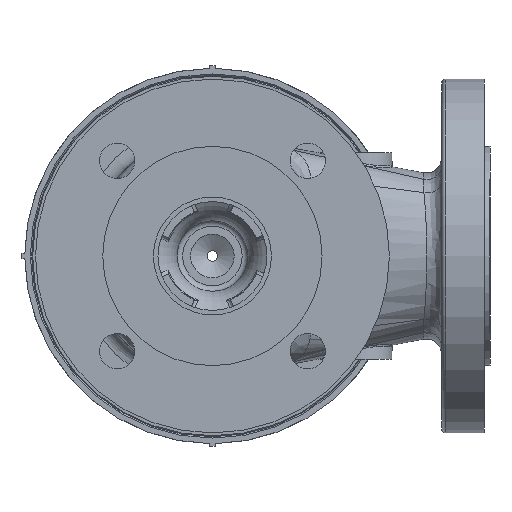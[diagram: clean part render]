
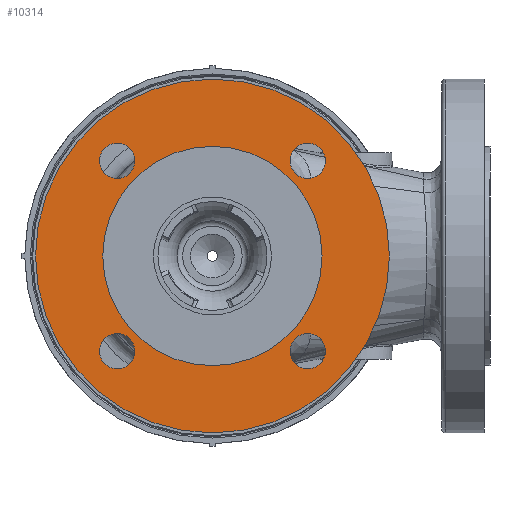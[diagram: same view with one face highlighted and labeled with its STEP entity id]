
A CAD part, front view. The second image highlights one B-rep face of the part: STEP entity #10314.
In plain terms, the highlighted planar face has unit normal (0, -1, 0).
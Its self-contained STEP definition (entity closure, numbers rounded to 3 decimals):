
#1808=FACE_BOUND('',#2591,.T.);
#1809=FACE_BOUND('',#2592,.T.);
#1810=FACE_BOUND('',#2593,.T.);
#1811=FACE_BOUND('',#2594,.T.);
#1812=FACE_BOUND('',#2595,.T.);
#1890=FACE_OUTER_BOUND('',#2590,.T.);
#2590=EDGE_LOOP('',(#6818));
#2591=EDGE_LOOP('',(#6819));
#2592=EDGE_LOOP('',(#6820));
#2593=EDGE_LOOP('',(#6821));
#2594=EDGE_LOOP('',(#6822));
#2595=EDGE_LOOP('',(#6823));
#3343=CIRCLE('',#11040,9.5);
#3345=CIRCLE('',#11043,9.5);
#3347=CIRCLE('',#11046,9.5);
#3349=CIRCLE('',#11049,9.5);
#3363=CIRCLE('',#11070,59.);
#3365=CIRCLE('',#11073,95.25);
#4039=VERTEX_POINT('',#15245);
#4041=VERTEX_POINT('',#15251);
#4043=VERTEX_POINT('',#15257);
#4045=VERTEX_POINT('',#15263);
#4064=VERTEX_POINT('',#15356);
#4066=VERTEX_POINT('',#15362);
#5086=EDGE_CURVE('',#4039,#4039,#3343,.T.);
#5089=EDGE_CURVE('',#4041,#4041,#3345,.T.);
#5092=EDGE_CURVE('',#4043,#4043,#3347,.T.);
#5095=EDGE_CURVE('',#4045,#4045,#3349,.T.);
#5121=EDGE_CURVE('',#4064,#4064,#3363,.T.);
#5124=EDGE_CURVE('',#4066,#4066,#3365,.T.);
#6818=ORIENTED_EDGE('',*,*,#5124,.F.);
#6819=ORIENTED_EDGE('',*,*,#5086,.T.);
#6820=ORIENTED_EDGE('',*,*,#5089,.T.);
#6821=ORIENTED_EDGE('',*,*,#5092,.T.);
#6822=ORIENTED_EDGE('',*,*,#5095,.T.);
#6823=ORIENTED_EDGE('',*,*,#5121,.F.);
#10092=PLANE('',#11072);
#10314=ADVANCED_FACE('',(#1890,#1808,#1809,#1810,#1811,#1812),#10092,.T.);
#11040=AXIS2_PLACEMENT_3D('',#15246,#12327,#12328);
#11043=AXIS2_PLACEMENT_3D('',#15252,#12334,#12335);
#11046=AXIS2_PLACEMENT_3D('',#15258,#12341,#12342);
#11049=AXIS2_PLACEMENT_3D('',#15264,#12348,#12349);
#11070=AXIS2_PLACEMENT_3D('',#15357,#12396,#12397);
#11072=AXIS2_PLACEMENT_3D('',#15361,#12401,#12402);
#11073=AXIS2_PLACEMENT_3D('',#15363,#12403,#12404);
#12327=DIRECTION('center_axis',(0.,1.,0.));
#12328=DIRECTION('ref_axis',(0.,0.,
1.));
#12334=DIRECTION('center_axis',(0.,1.,0.));
#12335=DIRECTION('ref_axis',(-1.,0.,0.));
#12341=DIRECTION('center_axis',(0.,1.,0.));
#12342=DIRECTION('ref_axis',(0.,0.,
-1.));
#12348=DIRECTION('center_axis',(0.,1.,0.));
#12349=DIRECTION('ref_axis',(1.,0.,0.));
#12396=DIRECTION('center_axis',(0.,-1.,0.));
#12397=DIRECTION('ref_axis',(-1.,0.,0.));
#12401=DIRECTION('center_axis',(0.,-1.,0.));
#12402=DIRECTION('ref_axis',(0.,0.,
-1.));
#12403=DIRECTION('center_axis',(0.,1.,0.));
#12404=DIRECTION('ref_axis',(-1.,0.,0.));
#15245=CARTESIAN_POINT('',(-51.265,-106.5,-60.765));
#15246=CARTESIAN_POINT('Origin',(-51.265,-106.5,-51.265));
#15251=CARTESIAN_POINT('',(60.765,-106.5,-51.265));
#15252=CARTESIAN_POINT('Origin',(51.265,-106.5,-51.265));
#15257=CARTESIAN_POINT('',(51.265,-106.5,60.765));
#15258=CARTESIAN_POINT('Origin',(51.265,-106.5,51.265));
#15263=CARTESIAN_POINT('',(-60.765,-106.5,51.265));
#15264=CARTESIAN_POINT('Origin',(-51.265,-106.5,51.265));
#15356=CARTESIAN_POINT('',(59.,-106.5,0.));
#15357=CARTESIAN_POINT('Origin',(0.,-106.5,0.));
#15361=CARTESIAN_POINT('Origin',(0.,-106.5,0.));
#15362=CARTESIAN_POINT('',(95.25,-106.5,0.));
#15363=CARTESIAN_POINT('Origin',(0.,-106.5,0.));
